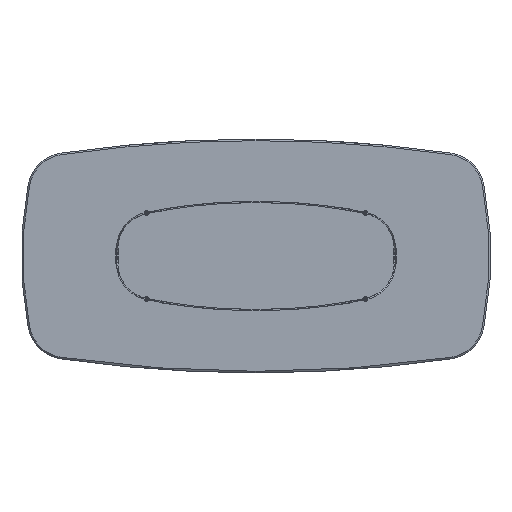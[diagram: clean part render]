
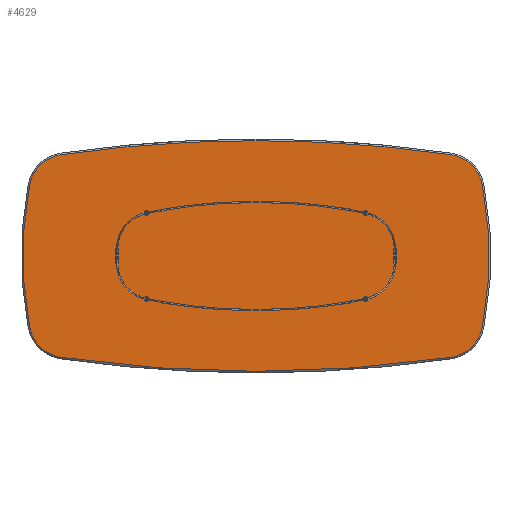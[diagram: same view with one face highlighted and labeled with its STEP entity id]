
A CAD part, front view. The second image highlights one B-rep face of the part: STEP entity #4629.
In plain terms, the highlighted planar face has unit normal (0, -1, 0).
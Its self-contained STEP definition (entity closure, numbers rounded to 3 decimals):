
#173 = CARTESIAN_POINT ( 'NONE',  ( -352.5, 0., 3177.5 ) ) ;
#727 = CARTESIAN_POINT ( 'NONE',  ( 1151.911, 0., -362.691 ) ) ;
#861 = CIRCLE ( 'NONE', #1186, 1892. ) ;
#1186 = AXIS2_PLACEMENT_3D ( 'NONE', #2895, #10827, #12314 ) ;
#1781 = DIRECTION ( 'NONE',  ( 0., -1., 0. ) ) ;
#2302 = CIRCLE ( 'NONE', #4848, 6942. ) ;
#2328 = CARTESIAN_POINT ( 'NONE',  ( -990.878, 0., -515.919 ) ) ;
#2431 = CARTESIAN_POINT ( 'NONE',  ( 0., 0., -6355. ) ) ;
#2524 = EDGE_LOOP ( 'NONE', ( #10295, #8622, #3809, #5903, #11688, #5848, #15651, #17332, #9470 ) ) ;
#2601 = CARTESIAN_POINT ( 'NONE',  ( 0., 0., 6355. ) ) ;
#2821 = VERTEX_POINT ( 'NONE', #5619 ) ;
#2872 = VERTEX_POINT ( 'NONE', #14713 ) ;
#2895 = CARTESIAN_POINT ( 'NONE',  ( -705., 0., 0. ) ) ;
#3345 = EDGE_CURVE ( 'NONE', #6996, #16813, #2302, .T. ) ;
#3418 = EDGE_CURVE ( 'NONE', #6071, #3909, #11303, .T. ) ;
#3670 = EDGE_CURVE ( 'NONE', #16813, #2821, #11865, .T. ) ;
#3721 = AXIS2_PLACEMENT_3D ( 'NONE', #173, #16498, #11104 ) ;
#3809 = ORIENTED_EDGE ( 'NONE', *, *, #3418, .T. ) ;
#3909 = VERTEX_POINT ( 'NONE', #727 ) ;
#4268 = AXIS2_PLACEMENT_3D ( 'NONE', #2431, #7802, #11033 ) ;
#4318 = DIRECTION ( 'NONE',  ( 0., 0., 1. ) ) ;
#4543 = AXIS2_PLACEMENT_3D ( 'NONE', #11317, #6038, #5761 ) ;
#4629 = ADVANCED_FACE ( 'NONE', ( #13577 ), #12252, .F. ) ;
#4767 = AXIS2_PLACEMENT_3D ( 'NONE', #17213, #13060, #7762 ) ;
#4848 = AXIS2_PLACEMENT_3D ( 'NONE', #16840, #7733, #11696 ) ;
#5596 = CIRCLE ( 'NONE', #4767, 192. ) ;
#5619 = CARTESIAN_POINT ( 'NONE',  ( -990.878, 0., 515.919 ) ) ;
#5761 = DIRECTION ( 'NONE',  ( 0., 0., 1. ) ) ;
#5848 = ORIENTED_EDGE ( 'NONE', *, *, #3345, .T. ) ;
#5903 = ORIENTED_EDGE ( 'NONE', *, *, #10375, .T. ) ;
#6038 = DIRECTION ( 'NONE',  ( 0., -1., 0. ) ) ;
#6071 = VERTEX_POINT ( 'NONE', #11154 ) ;
#6229 = DIRECTION ( 'NONE',  ( 0., 0., 1. ) ) ;
#6513 = AXIS2_PLACEMENT_3D ( 'NONE', #7146, #1781, #12516 ) ;
#6649 = CARTESIAN_POINT ( 'NONE',  ( 1151.911, 0., 362.691 ) ) ;
#6996 = VERTEX_POINT ( 'NONE', #10107 ) ;
#7051 = CIRCLE ( 'NONE', #14096, 6942. ) ;
#7138 = DIRECTION ( 'NONE',  ( 0., -1., 0. ) ) ;
#7146 = CARTESIAN_POINT ( 'NONE',  ( 963.472, 0., 325.885 ) ) ;
#7463 = DIRECTION ( 'NONE',  ( 0., -1., 0. ) ) ;
#7507 = EDGE_CURVE ( 'NONE', #8433, #6071, #7051, .T. ) ;
#7530 = VERTEX_POINT ( 'NONE', #6649 ) ;
#7557 = CARTESIAN_POINT ( 'NONE',  ( 0., 0., 587. ) ) ;
#7591 = AXIS2_PLACEMENT_3D ( 'NONE', #12509, #7138, #4318 ) ;
#7641 = AXIS2_PLACEMENT_3D ( 'NONE', #14166, #7463, #6229 ) ;
#7733 = DIRECTION ( 'NONE',  ( 0., -1., 0. ) ) ;
#7762 = DIRECTION ( 'NONE',  ( 0., 0., 1. ) ) ;
#7802 = DIRECTION ( 'NONE',  ( 0., -1., 0. ) ) ;
#8169 = EDGE_CURVE ( 'NONE', #2821, #2872, #13818, .T. ) ;
#8433 = VERTEX_POINT ( 'NONE', #2328 ) ;
#8622 = ORIENTED_EDGE ( 'NONE', *, *, #7507, .T. ) ;
#9317 = VERTEX_POINT ( 'NONE', #15584 ) ;
#9470 = ORIENTED_EDGE ( 'NONE', *, *, #16150, .T. ) ;
#9892 = CIRCLE ( 'NONE', #6513, 192. ) ;
#10107 = CARTESIAN_POINT ( 'NONE',  ( 990.878, 0., 515.919 ) ) ;
#10295 = ORIENTED_EDGE ( 'NONE', *, *, #14125, .T. ) ;
#10375 = EDGE_CURVE ( 'NONE', #3909, #7530, #861, .T. ) ;
#10827 = DIRECTION ( 'NONE',  ( 0., -1., 0. ) ) ;
#10871 = DIRECTION ( 'NONE',  ( 0., 0., 1. ) ) ;
#11033 = DIRECTION ( 'NONE',  ( 0., 0., 1. ) ) ;
#11104 = DIRECTION ( 'NONE',  ( 0., 0., 1. ) ) ;
#11154 = CARTESIAN_POINT ( 'NONE',  ( 990.878, 0., -515.919 ) ) ;
#11303 = CIRCLE ( 'NONE', #7641, 192. ) ;
#11317 = CARTESIAN_POINT ( 'NONE',  ( -963.472, 0., 325.885 ) ) ;
#11688 = ORIENTED_EDGE ( 'NONE', *, *, #12728, .T. ) ;
#11696 = DIRECTION ( 'NONE',  ( 0., 0., 1. ) ) ;
#11865 = CIRCLE ( 'NONE', #4268, 6942. ) ;
#12252 = PLANE ( 'NONE',  #3721 ) ;
#12277 = DIRECTION ( 'NONE',  ( 0., -1., 0. ) ) ;
#12314 = DIRECTION ( 'NONE',  ( 0., 0., 1. ) ) ;
#12509 = CARTESIAN_POINT ( 'NONE',  ( 705., 0., 0. ) ) ;
#12516 = DIRECTION ( 'NONE',  ( 0., 0., 1. ) ) ;
#12728 = EDGE_CURVE ( 'NONE', #7530, #6996, #9892, .T. ) ;
#13060 = DIRECTION ( 'NONE',  ( 0., -1., 0. ) ) ;
#13246 = CIRCLE ( 'NONE', #7591, 1892. ) ;
#13577 = FACE_OUTER_BOUND ( 'NONE', #2524, .T. ) ;
#13818 = CIRCLE ( 'NONE', #4543, 192. ) ;
#14096 = AXIS2_PLACEMENT_3D ( 'NONE', #2601, #12277, #10871 ) ;
#14125 = EDGE_CURVE ( 'NONE', #9317, #8433, #5596, .T. ) ;
#14166 = CARTESIAN_POINT ( 'NONE',  ( 963.472, 0., -325.885 ) ) ;
#14713 = CARTESIAN_POINT ( 'NONE',  ( -1151.911, 0., 362.691 ) ) ;
#15584 = CARTESIAN_POINT ( 'NONE',  ( -1151.911, 0., -362.691 ) ) ;
#15651 = ORIENTED_EDGE ( 'NONE', *, *, #3670, .T. ) ;
#16150 = EDGE_CURVE ( 'NONE', #2872, #9317, #13246, .T. ) ;
#16498 = DIRECTION ( 'NONE',  ( 0., 1., 0. ) ) ;
#16813 = VERTEX_POINT ( 'NONE', #7557 ) ;
#16840 = CARTESIAN_POINT ( 'NONE',  ( 0., 0., -6355. ) ) ;
#17213 = CARTESIAN_POINT ( 'NONE',  ( -963.472, 0., -325.885 ) ) ;
#17332 = ORIENTED_EDGE ( 'NONE', *, *, #8169, .T. ) ;
